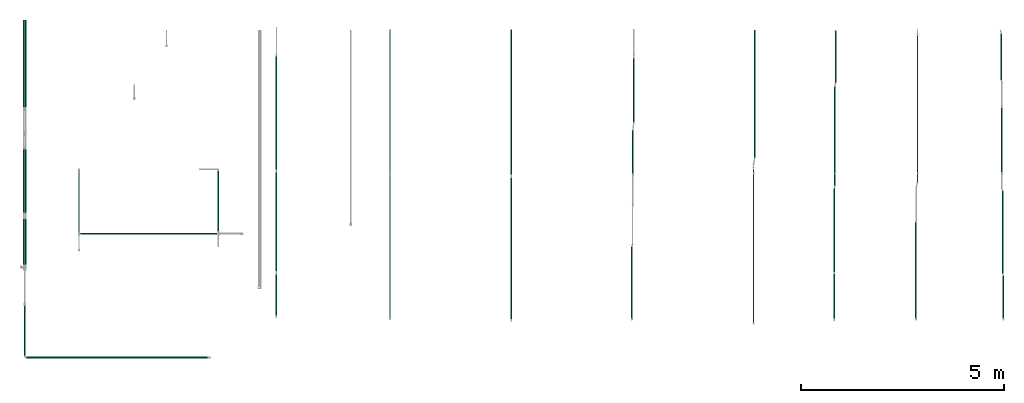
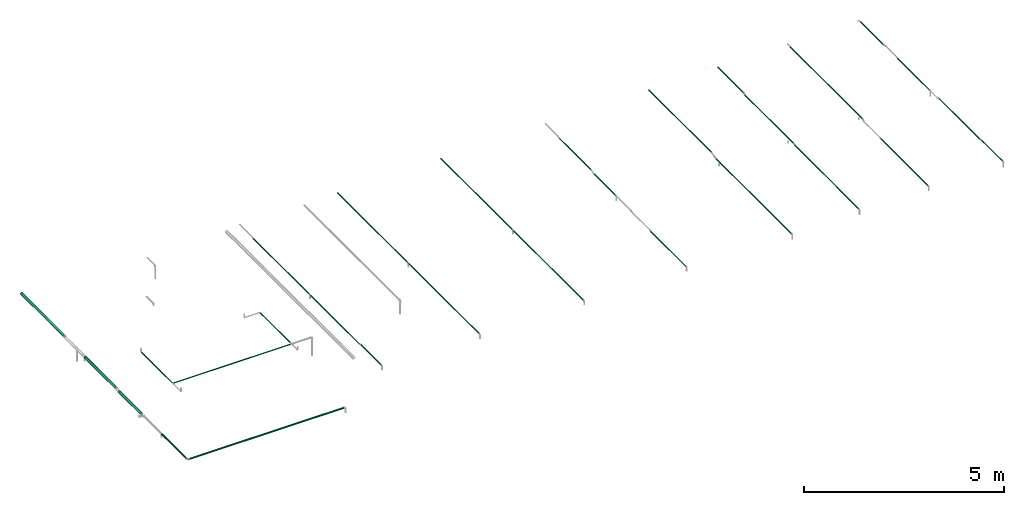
# One storey, part 1 of 32: 30 flow segments.
"""IFC2X3 building model written with IfcOpenShell, lengths in millimetres."""

from ifc_helpers import new_model, entity, si_unit, converted_unit, derived_unit, direction, frame, origin_with_axes, origin_2d_with_axis, place, context, subcontext, project, spatial, hollow_circle, extrude, source, transform, mapped, type_object, element, save


model = new_model("IFC2X3")

# Units and contexts
model_context = context("Model", 3, precision=0.01, world=frame((0.0, 4.29681676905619e-09, 0.0)), true_north=direction((4.01073788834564e-13, 1.0)))
plan_context = context("Plan", 3, precision=0.01, world=frame((0.0, 4.29681676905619e-09, 0.0)), true_north=direction((4.01073788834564e-13, 1.0)))
body_context = subcontext(model_context, "Body", "Model", "MODEL_VIEW")
ifc_project = project(units=[converted_unit("PLANEANGLEUNIT", "DEGREE", entity("IfcPositiveLengthMeasure", 0.0174532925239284), si_unit("PLANEANGLEUNIT", "RADIAN"), dimensions=[0, 0, 0, 0, 0, 0, 0]), si_unit("AREAUNIT", "SQUARE_METRE"), si_unit("LENGTHUNIT", "METRE", prefix="MILLI"), si_unit("MASSUNIT", "GRAM", prefix="KILO"), si_unit("POWERUNIT", "WATT"), si_unit("PRESSUREUNIT", "PASCAL", prefix="KILO"), si_unit("FORCEUNIT", "NEWTON", prefix="KILO"), si_unit("ELECTRICVOLTAGEUNIT", "VOLT"), si_unit("ELECTRICCURRENTUNIT", "AMPERE"), si_unit("THERMODYNAMICTEMPERATUREUNIT", "DEGREE_CELSIUS"), si_unit("TIMEUNIT", "SECOND"), si_unit("VOLUMEUNIT", "CUBIC_METRE"), derived_unit("LINEARVELOCITYUNIT", [(si_unit("LENGTHUNIT", "METRE"), 1), (si_unit("TIMEUNIT", "SECOND"), -1)]), derived_unit("VOLUMETRICFLOWRATEUNIT", [(si_unit("VOLUMEUNIT", "CUBIC_METRE"), 1), (si_unit("TIMEUNIT", "SECOND"), -1)]), derived_unit("THERMALTRANSMITTANCEUNIT", [(si_unit("POWERUNIT", "WATT"), 1), (si_unit("THERMODYNAMICTEMPERATUREUNIT", "KELVIN"), -1), (si_unit("AREAUNIT", "SQUARE_METRE"), -1)]), derived_unit("SOUNDPRESSUREUNIT", [(si_unit("PRESSUREUNIT", "PASCAL"), 1)])], contexts=[model_context, plan_context])

# Site, building, storey
site_placement = place(None, frame((0.0, -4.29681676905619e-09, 0.0), z_axis=(0.0, 0.0, 1.0), x_axis=(1.0, 0.0, 0.0)))
site = spatial("IfcSite", under=ifc_project, at=site_placement, CompositionType="ELEMENT")
building_placement = place(site_placement, frame((0.0, 4.29681676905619e-09, 0.0), z_axis=(0.0, 0.0, 1.0), x_axis=(1.0, 0.0, 0.0)))
building = spatial("IfcBuilding", under=site, at=building_placement, Name="mc-building", CompositionType="ELEMENT")
storey_placement = place(building_placement, frame((0.0, 0.0, 205200.0), z_axis=(0.0, 0.0, 1.0), x_axis=(1.0, 0.0, 0.0)))
storey = spatial("IfcBuildingStorey", under=building, at=storey_placement, Name="Nivå D + 1,2 m", CompositionType="ELEMENT", Elevation=205200.0)

# Flow segments
pipe_segment_type = type_object("IfcPipeSegmentType", Name="Stålrør normaltykke", PredefinedType="RIGIDSEGMENT")
shared_shape_1 = source(origin_with_axes(), body_context, "Body", "SweptSolid", [
    extrude(hollow_circle(Radius=16.9, WallThickness=2.0, at=origin_2d_with_axis()), frame((0.0, 0.0, 0.0), z_axis=(1.0, 0.0, 0.0), x_axis=(0.0, 1.0, 0.0)), (0.0, 0.0, 1.0), 1143.1),
])
flow_segment_1_placement = place(storey_placement, frame((347577.5, 466261.90891, 4444.43145999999), z_axis=(0.0, 0.0, 1.0), x_axis=(0.0, 1.0, 0.0)))
element("IfcFlowSegment", 1, at=flow_segment_1_placement, inside=storey, type_object=pipe_segment_type, Name="Stålrør normaltykke", context=body_context, shape_type="MappedRepresentation", body=[
    mapped(shared_shape_1, transform((0.0, 0.0, 0.0), scale=1.0)),
])
shared_shape_2 = source(origin_with_axes(), body_context, "Body", "SweptSolid", [
    extrude(hollow_circle(Radius=16.9, WallThickness=2.0, at=origin_2d_with_axis()), frame((0.0, 0.0, 0.0), z_axis=(1.0, 0.0, 0.0), x_axis=(0.0, 1.0, 0.0)), (0.0, 0.0, 1.0), 1291.1),
])
flow_segment_2_placement = place(storey_placement, frame((343492.5, 467486.03146, 4444.43145999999), z_axis=(0.0, 0.0, 1.0), x_axis=(0.0, -1.0, 0.0)))
element("IfcFlowSegment", 2, at=flow_segment_2_placement, inside=storey, type_object=pipe_segment_type, Name="Stålrør normaltykke", context=body_context, shape_type="MappedRepresentation", body=[
    mapped(shared_shape_2, transform((0.0, 0.0, 0.0), scale=1.0)),
])
shared_shape_3 = source(origin_with_axes(), body_context, "Body", "SweptSolid", [
    extrude(hollow_circle(Radius=16.9, WallThickness=2.0, at=origin_2d_with_axis()), frame((0.0, 0.0, 0.0), z_axis=(1.0, 0.0, 0.0), x_axis=(0.0, 1.0, 0.0)), (0.0, 0.0, 1.0), 3754.3),
])
flow_segment_3_placement = place(storey_placement, frame((341467.5, 460292.23146, 4428.76157999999), z_axis=(0.0, 0.0, 1.0), x_axis=(0.0, 1.0, 0.0)))
element("IfcFlowSegment", 3, at=flow_segment_3_placement, inside=storey, type_object=pipe_segment_type, Name="Stålrør normaltykke", context=body_context, shape_type="MappedRepresentation", body=[
    mapped(shared_shape_3, transform((0.0, 0.0, 0.0), scale=1.0)),
])
shared_shape_4 = source(origin_with_axes(), body_context, "Body", "SweptSolid", [
    extrude(hollow_circle(Radius=16.9, WallThickness=2.0, at=origin_2d_with_axis()), frame((0.0, 0.0, 0.0), z_axis=(1.0, 0.0, 0.0), x_axis=(0.0, 1.0, 0.0)), (0.0, 0.0, 1.0), 3498.7),
])
flow_segment_4_placement = place(storey_placement, frame((335492.5, 460359.73146, 4444.43145999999), z_axis=(0.0, 0.0, 1.0), x_axis=(0.0, 1.0, 0.0)))
element("IfcFlowSegment", 4, at=flow_segment_4_placement, inside=storey, type_object=pipe_segment_type, Name="Stålrør normaltykke", context=body_context, shape_type="MappedRepresentation", body=[
    mapped(shared_shape_4, transform((0.0, 0.0, 0.0), scale=1.0)),
])
shared_shape_5 = source(origin_with_axes(), body_context, "Body", "SweptSolid", [
    extrude(hollow_circle(Radius=16.9, WallThickness=2.0, at=origin_2d_with_axis()), frame((0.0, 0.0, 0.0), z_axis=(1.0, 0.0, 0.0), x_axis=(0.0, 1.0, 0.0)), (0.0, 0.0, 1.0), 3585.0),
])
flow_segment_5_placement = place(storey_placement, frame((335492.5, 463926.06745, 4444.43145999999), z_axis=(0.0, 0.0, 1.0), x_axis=(0.0, 1.0, 0.0)))
element("IfcFlowSegment", 5, at=flow_segment_5_placement, inside=storey, type_object=pipe_segment_type, Name="Stålrør normaltykke", context=body_context, shape_type="MappedRepresentation", body=[
    mapped(shared_shape_5, transform((0.0, 0.0, 0.0), scale=1.0)),
])
shared_shape_6 = source(origin_with_axes(), body_context, "Body", "SweptSolid", [
    extrude(hollow_circle(Radius=16.9, WallThickness=2.0, at=origin_2d_with_axis()), frame((0.0, 0.0, 0.0), z_axis=(1.0, 0.0, 0.0), x_axis=(0.0, 1.0, 0.0)), (0.0, 0.0, 1.0), 3526.2),
])
flow_segment_6_placement = place(storey_placement, frame((332502.5, 460407.23146, 4444.43145999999), z_axis=(0.0, 0.0, 1.0), x_axis=(0.0, 1.0, 0.0)))
element("IfcFlowSegment", 6, at=flow_segment_6_placement, inside=storey, type_object=pipe_segment_type, Name="Stålrør normaltykke", context=body_context, shape_type="MappedRepresentation", body=[
    mapped(shared_shape_6, transform((0.0, 0.0, 0.0), scale=1.0)),
])
shared_shape_7 = source(origin_with_axes(), body_context, "Body", "SweptSolid", [
    extrude(hollow_circle(Radius=16.9, WallThickness=2.0, at=origin_2d_with_axis()), frame((0.0, 0.0, 0.0), z_axis=(1.0, 0.0, 0.0), x_axis=(0.0, 1.0, 0.0)), (0.0, 0.0, 1.0), 3510.0),
])
flow_segment_7_placement = place(storey_placement, frame((332502.5, 464001.06745, 4444.43145999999), z_axis=(0.0, 0.0, 1.0), x_axis=(0.0, 1.0, 0.0)))
element("IfcFlowSegment", 7, at=flow_segment_7_placement, inside=storey, type_object=pipe_segment_type, Name="Stålrør normaltykke", context=body_context, shape_type="MappedRepresentation", body=[
    mapped(shared_shape_7, transform((0.0, 0.0, 0.0), scale=1.0)),
])
shared_shape_8 = source(origin_with_axes(), body_context, "Body", "SweptSolid", [
    extrude(hollow_circle(Radius=24.1, WallThickness=2.0, at=origin_2d_with_axis()), frame((0.0, 0.0, 0.0), z_axis=(1.0, 0.0, 0.0), x_axis=(0.0, 1.0, 0.0)), (0.0, 0.0, 1.0), 4467.4),
])
flow_segment_8_placement = place(storey_placement, frame((328013.26406, 459420.23929, 4347.43145999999), z_axis=(0.0, 0.0, 1.0), x_axis=(-0.999999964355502, 0.000266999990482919, 0.0)))
element("IfcFlowSegment", 8, at=flow_segment_8_placement, inside=storey, type_object=pipe_segment_type, Name="Stålrør normaltykke", context=body_context, shape_type="MappedRepresentation", body=[
    mapped(shared_shape_8, transform((0.0, 0.0, 0.0), scale=1.0)),
])
shared_shape_9 = source(origin_with_axes(), body_context, "Body", "SweptSolid", [
    extrude(hollow_circle(Radius=38.0, WallThickness=2.0, at=origin_2d_with_axis()), frame((0.0, 0.0, 0.0), z_axis=(1.0, 0.0, 0.0), x_axis=(0.0, 1.0, 0.0)), (0.0, 0.0, 1.0), 1551.7),
])
flow_segment_9_placement = place(storey_placement, frame((323497.5, 462996.80729, 4367.43145999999), z_axis=(0.0, 0.0, 1.0), x_axis=(0.0, 1.0, 0.0)))
element("IfcFlowSegment", 9, at=flow_segment_9_placement, inside=storey, type_object=pipe_segment_type, Name="Stålrør normaltykke", context=body_context, shape_type="MappedRepresentation", body=[
    mapped(shared_shape_9, transform((0.0, 0.0, 0.0), scale=1.0)),
])
shared_shape_10 = source(origin_with_axes(), body_context, "Body", "SweptSolid", [
    extrude(hollow_circle(Radius=16.9, WallThickness=2.0, at=origin_2d_with_axis()), frame((0.0, 0.0, 0.0), z_axis=(1.0, 0.0, 0.0), x_axis=(0.0, 1.0, 0.0)), (0.0, 0.0, 1.0), 2444.9),
])
flow_segment_10_placement = place(storey_placement, frame((329697.5, 461543.61733, 4419.99012999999), z_axis=(0.0, 0.0, 1.0), x_axis=(0.0, 1.0, 0.0)))
element("IfcFlowSegment", 10, at=flow_segment_10_placement, inside=storey, type_object=pipe_segment_type, Name="Stålrør normaltykke", context=body_context, shape_type="MappedRepresentation", body=[
    mapped(shared_shape_10, transform((0.0, 0.0, 0.0), scale=1.0)),
])
shared_shape_11 = source(origin_with_axes(), body_context, "Body", "SweptSolid", [
    extrude(hollow_circle(Radius=24.1, WallThickness=2.0, at=origin_2d_with_axis()), frame((0.0, 0.0, 0.0), z_axis=(1.0, 0.0, 0.0), x_axis=(0.0, 1.0, 0.0)), (0.0, 0.0, 1.0), 1229.8),
])
flow_segment_11_placement = place(storey_placement, frame((323497.5, 460699.63146, 4347.43145999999), z_axis=(0.0, 0.0, 1.0), x_axis=(0.0, -1.0, 0.0)))
element("IfcFlowSegment", 11, at=flow_segment_11_placement, inside=storey, type_object=pipe_segment_type, Name="Stålrør normaltykke", context=body_context, shape_type="MappedRepresentation", body=[
    mapped(shared_shape_11, transform((0.0, 0.0, 0.0), scale=1.0)),
])
shared_shape_12 = source(origin_with_axes(), body_context, "Body", "SweptSolid", [
    extrude(hollow_circle(Radius=38.0, WallThickness=2.0, at=origin_2d_with_axis()), frame((0.0, 0.0, 0.0), z_axis=(1.0, 0.0, 0.0), x_axis=(0.0, 1.0, 0.0)), (0.0, 0.0, 1.0), 2150.0),
])
flow_segment_12_placement = place(storey_placement, frame((323497.5, 467744.63146, 4382.43145999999), z_axis=(0.0, 0.0, 1.0), x_axis=(0.0, -1.0, 0.0)))
element("IfcFlowSegment", 12, at=flow_segment_12_placement, inside=storey, type_object=pipe_segment_type, Name="Stålrør normaltykke", context=body_context, shape_type="MappedRepresentation", body=[
    mapped(shared_shape_12, transform((0.0, 0.0, 0.0), scale=1.0)),
])
shared_shape_13 = source(origin_with_axes(), body_context, "Body", "SweptSolid", [
    extrude(hollow_circle(Radius=38.0, WallThickness=2.0, at=origin_2d_with_axis()), frame((0.0, 0.0, 0.0), z_axis=(1.0, 0.0, 0.0), x_axis=(0.0, 1.0, 0.0)), (0.0, 0.0, 1.0), 1134.6),
])
flow_segment_13_placement = place(storey_placement, frame((323497.5, 461711.39192, 4347.43145999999), z_axis=(0.0, 0.0, 1.0), x_axis=(0.0, 1.0, 0.0)))
element("IfcFlowSegment", 13, at=flow_segment_13_placement, inside=storey, type_object=pipe_segment_type, Name="Stålrør normaltykke", context=body_context, shape_type="MappedRepresentation", body=[
    mapped(shared_shape_13, transform((0.0, 0.0, 0.0), scale=1.0)),
])
shared_shape_14 = source(origin_with_axes(), body_context, "Body", "SweptSolid", [
    extrude(hollow_circle(Radius=16.9, WallThickness=2.0, at=origin_2d_with_axis()), frame((0.0, 0.0, 0.0), z_axis=(1.0, 0.0, 0.0), x_axis=(0.0, 1.0, 0.0)), (0.0, 0.0, 1.0), 2797.2),
])
flow_segment_14_placement = place(storey_placement, frame((329697.5, 464056.06745, 4419.99012999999), z_axis=(0.0, 0.0, 1.0), x_axis=(0.0, 1.0, 0.0)))
element("IfcFlowSegment", 14, at=flow_segment_14_placement, inside=storey, type_object=pipe_segment_type, Name="Stålrør normaltykke", context=body_context, shape_type="MappedRepresentation", body=[
    mapped(shared_shape_14, transform((0.0, 0.0, 0.0), scale=1.0)),
])
shared_shape_15 = source(origin_with_axes(), body_context, "Body", "SweptSolid", [
    extrude(hollow_circle(Radius=16.9, WallThickness=2.0, at=origin_2d_with_axis()), frame((0.0, 0.0, 0.0), z_axis=(1.0, 0.0, 0.0), x_axis=(0.0, 1.0, 0.0)), (0.0, 0.0, 1.0), 1013.4),
])
flow_segment_15_placement = place(storey_placement, frame((329697.5, 460457.23146, 4443.58468999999), z_axis=(0.0, 0.0, 1.0), x_axis=(0.0, 1.0, 0.0)))
element("IfcFlowSegment", 15, at=flow_segment_15_placement, inside=storey, type_object=pipe_segment_type, Name="Stålrør normaltykke", context=body_context, shape_type="MappedRepresentation", body=[
    mapped(shared_shape_15, transform((0.0, 0.0, 0.0), scale=1.0)),
])
shared_shape_16 = source(origin_with_axes(), body_context, "Body", "SweptSolid", [
    extrude(hollow_circle(Radius=16.9, WallThickness=2.0, at=origin_2d_with_axis()), frame((0.0, 0.0, 0.0), z_axis=(1.0, 0.0, 0.0), x_axis=(0.0, 1.0, 0.0)), (0.0, 0.0, 1.0), 1067.9),
])
flow_segment_16_placement = place(storey_placement, frame((338492.5, 463956.06745, 4424.13733999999), z_axis=(0.0, 0.0, 1.0), x_axis=(0.0, 1.0, 0.0)))
element("IfcFlowSegment", 16, at=flow_segment_16_placement, inside=storey, type_object=pipe_segment_type, Name="Stålrør normaltykke", context=body_context, shape_type="MappedRepresentation", body=[
    mapped(shared_shape_16, transform((0.0, 0.0, 0.0), scale=1.0)),
])
shared_shape_17 = source(origin_with_axes(), body_context, "Body", "SweptSolid", [
    extrude(hollow_circle(Radius=16.9, WallThickness=2.0, at=origin_2d_with_axis()), frame((0.0, 0.0, 0.0), z_axis=(1.0, 0.0, 0.0), x_axis=(0.0, 1.0, 0.0)), (0.0, 0.0, 1.0), 1761.7),
])
flow_segment_17_placement = place(storey_placement, frame((338467.5, 460387.23146, 4424.13733999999), z_axis=(0.0, 0.0, 1.0), x_axis=(0.0, 1.0, 0.0)))
element("IfcFlowSegment", 17, at=flow_segment_17_placement, inside=storey, type_object=pipe_segment_type, Name="Stålrør normaltykke", context=body_context, shape_type="MappedRepresentation", body=[
    mapped(shared_shape_17, transform((0.0, 0.0, 0.0), scale=1.0)),
])
shared_shape_18 = source(origin_with_axes(), body_context, "Body", "SweptSolid", [
    extrude(hollow_circle(Radius=16.9, WallThickness=2.0, at=origin_2d_with_axis()), frame((0.0, 0.0, 0.0), z_axis=(1.0, 0.0, 0.0), x_axis=(0.0, 1.0, 0.0)), (0.0, 0.0, 1.0), 1567.5),
])
flow_segment_18_placement = place(storey_placement, frame((338517.5, 465228.17176, 4424.13733999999), z_axis=(0.0, 0.0, 1.0), x_axis=(0.0, 1.0, 0.0)))
element("IfcFlowSegment", 18, at=flow_segment_18_placement, inside=storey, type_object=pipe_segment_type, Name="Stålrør normaltykke", context=body_context, shape_type="MappedRepresentation", body=[
    mapped(shared_shape_18, transform((0.0, 0.0, 0.0), scale=1.0)),
])
shared_shape_19 = source(origin_with_axes(), body_context, "Body", "SweptSolid", [
    extrude(hollow_circle(Radius=16.9, WallThickness=2.0, at=origin_2d_with_axis()), frame((0.0, 0.0, 0.0), z_axis=(1.0, 0.0, 0.0), x_axis=(0.0, 1.0, 0.0)), (0.0, 0.0, 1.0), 3156.9),
])
flow_segment_19_placement = place(storey_placement, frame((341497.5, 467501.03146, 4444.43145999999), z_axis=(0.0, 0.0, 1.0), x_axis=(0.0, -1.0, 0.0)))
element("IfcFlowSegment", 19, at=flow_segment_19_placement, inside=storey, type_object=pipe_segment_type, Name="Stålrør normaltykke", context=body_context, shape_type="MappedRepresentation", body=[
    mapped(shared_shape_19, transform((0.0, 0.0, 0.0), scale=1.0)),
])
shared_shape_20 = source(origin_with_axes(), body_context, "Body", "SweptSolid", [
    extrude(hollow_circle(Radius=16.9, WallThickness=2.0, at=origin_2d_with_axis()), frame((0.0, 0.0, 0.0), z_axis=(1.0, 0.0, 0.0), x_axis=(0.0, 1.0, 0.0)), (0.0, 0.0, 1.0), 2441.1),
])
flow_segment_20_placement = place(storey_placement, frame((343472.5, 463661.05083, 4444.43145999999), z_axis=(0.0, 0.0, 1.0), x_axis=(0.0, 1.0, 0.0)))
element("IfcFlowSegment", 20, at=flow_segment_20_placement, inside=storey, type_object=pipe_segment_type, Name="Stålrør normaltykke", context=body_context, shape_type="MappedRepresentation", body=[
    mapped(shared_shape_20, transform((0.0, 0.0, 0.0), scale=1.0)),
])
shared_shape_21 = source(origin_with_axes(), body_context, "Body", "SweptSolid", [
    extrude(hollow_circle(Radius=16.9, WallThickness=2.0, at=origin_2d_with_axis()), frame((0.0, 0.0, 0.0), z_axis=(1.0, 0.0, 0.0), x_axis=(0.0, 1.0, 0.0)), (0.0, 0.0, 1.0), 2061.4),
])
flow_segment_21_placement = place(storey_placement, frame((343462.5, 461529.40033, 4444.43145999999), z_axis=(0.0, 0.0, 1.0), x_axis=(0.0, 1.0, 0.0)))
element("IfcFlowSegment", 21, at=flow_segment_21_placement, inside=storey, type_object=pipe_segment_type, Name="Stålrør normaltykke", context=body_context, shape_type="MappedRepresentation", body=[
    mapped(shared_shape_21, transform((0.0, 0.0, 0.0), scale=1.0)),
])
shared_shape_22 = source(origin_with_axes(), body_context, "Body", "SweptSolid", [
    extrude(hollow_circle(Radius=16.9, WallThickness=2.0, at=origin_2d_with_axis()), frame((0.0, 0.0, 0.0), z_axis=(1.0, 0.0, 0.0), x_axis=(0.0, 1.0, 0.0)), (0.0, 0.0, 1.0), 1114.0),
])
flow_segment_22_placement = place(storey_placement, frame((343457.5, 460372.23146, 4444.43145999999), z_axis=(0.0, 0.0, 1.0), x_axis=(0.0, 1.0, 0.0)))
element("IfcFlowSegment", 22, at=flow_segment_22_placement, inside=storey, type_object=pipe_segment_type, Name="Stålrør normaltykke", context=body_context, shape_type="MappedRepresentation", body=[
    mapped(shared_shape_22, transform((0.0, 0.0, 0.0), scale=1.0)),
])
shared_shape_23 = source(origin_with_axes(), body_context, "Body", "SweptSolid", [
    extrude(hollow_circle(Radius=16.9, WallThickness=2.0, at=origin_2d_with_axis()), frame((0.0, 0.0, 0.0), z_axis=(1.0, 0.0, 0.0), x_axis=(0.0, 1.0, 0.0)), (0.0, 0.0, 1.0), 3614.3),
])
flow_segment_23_placement = place(storey_placement, frame((345512.5, 463746.96531, 4434.19579999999), z_axis=(0.0, 0.0, 1.0), x_axis=(0.0, 1.0, 0.0)))
element("IfcFlowSegment", 23, at=flow_segment_23_placement, inside=storey, type_object=pipe_segment_type, Name="Stålrør normaltykke", context=body_context, shape_type="MappedRepresentation", body=[
    mapped(shared_shape_23, transform((0.0, 0.0, 0.0), scale=1.0)),
])
shared_shape_24 = source(origin_with_axes(), body_context, "Body", "SweptSolid", [
    extrude(hollow_circle(Radius=16.9, WallThickness=2.0, at=origin_2d_with_axis()), frame((0.0, 0.0, 0.0), z_axis=(1.0, 0.0, 0.0), x_axis=(0.0, 1.0, 0.0)), (0.0, 0.0, 1.0), 2361.7),
])
flow_segment_24_placement = place(storey_placement, frame((345472.5, 460392.23146, 4434.19579999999), z_axis=(0.0, 0.0, 1.0), x_axis=(0.0, 1.0, 0.0)))
element("IfcFlowSegment", 24, at=flow_segment_24_placement, inside=storey, type_object=pipe_segment_type, Name="Stålrør normaltykke", context=body_context, shape_type="MappedRepresentation", body=[
    mapped(shared_shape_24, transform((0.0, 0.0, 0.0), scale=1.0)),
])
shared_shape_25 = source(origin_with_axes(), body_context, "Body", "SweptSolid", [
    extrude(hollow_circle(Radius=16.9, WallThickness=2.0, at=origin_2d_with_axis()), frame((0.0, 0.0, 0.0), z_axis=(1.0, 0.0, 0.0), x_axis=(0.0, 1.0, 0.0)), (0.0, 0.0, 1.0), 1587.6),
])
flow_segment_25_placement = place(storey_placement, frame((347592.5, 463993.56745, 4433.60793), z_axis=(0.0, 0.0, 1.0), x_axis=(0.0, 1.0, 0.0)))
element("IfcFlowSegment", 25, at=flow_segment_25_placement, inside=storey, type_object=pipe_segment_type, Name="Stålrør normaltykke", context=body_context, shape_type="MappedRepresentation", body=[
    mapped(shared_shape_25, transform((0.0, 0.0, 0.0), scale=1.0)),
])
shared_shape_26 = source(origin_with_axes(), body_context, "Body", "SweptSolid", [
    extrude(hollow_circle(Radius=16.9, WallThickness=2.0, at=origin_2d_with_axis()), frame((0.0, 0.0, 0.0), z_axis=(1.0, 0.0, 0.0), x_axis=(0.0, 1.0, 0.0)), (0.0, 0.0, 1.0), 2043.3),
])
flow_segment_26_placement = place(storey_placement, frame((347612.5, 461487.85871, 4433.60793), z_axis=(0.0, 0.0, 1.0), x_axis=(0.0, 1.0, 0.0)))
element("IfcFlowSegment", 26, at=flow_segment_26_placement, inside=storey, type_object=pipe_segment_type, Name="Stålrør normaltykke", context=body_context, shape_type="MappedRepresentation", body=[
    mapped(shared_shape_26, transform((0.0, 0.0, 0.0), scale=1.0)),
])
shared_shape_27 = source(origin_with_axes(), body_context, "Body", "SweptSolid", [
    extrude(hollow_circle(Radius=16.9, WallThickness=2.0, at=origin_2d_with_axis()), frame((0.0, 0.0, 0.0), z_axis=(1.0, 0.0, 0.0), x_axis=(0.0, 1.0, 0.0)), (0.0, 0.0, 1.0), 1040.6),
])
flow_segment_27_placement = place(storey_placement, frame((347627.5, 460392.23146, 4433.60793), z_axis=(0.0, 0.0, 1.0), x_axis=(0.0, 1.0, 0.0)))
element("IfcFlowSegment", 27, at=flow_segment_27_placement, inside=storey, type_object=pipe_segment_type, Name="Stålrør normaltykke", context=body_context, shape_type="MappedRepresentation", body=[
    mapped(shared_shape_27, transform((0.0, 0.0, 0.0), scale=1.0)),
])
shared_shape_28 = source(origin_with_axes(), body_context, "Body", "SweptSolid", [
    extrude(hollow_circle(Radius=16.9, WallThickness=2.0, at=origin_2d_with_axis()), frame((0.0, 0.0, 0.0), z_axis=(1.0, 0.0, 0.0), x_axis=(0.0, 1.0, 0.0)), (0.0, 0.0, 1.0), 1519.4),
])
flow_segment_28_placement = place(storey_placement, frame((324834.97595, 462509.64044, 4357.43145999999), z_axis=(0.0, 0.0, 1.0), x_axis=(0.0, 1.0, 0.0)))
element("IfcFlowSegment", 28, at=flow_segment_28_placement, inside=storey, type_object=pipe_segment_type, Name="Stålrør normaltykke", context=body_context, shape_type="MappedRepresentation", body=[
    mapped(shared_shape_28, transform((0.0, 0.0, 0.0), scale=1.0)),
])
shared_shape_29 = source(origin_with_axes(), body_context, "Body", "SweptSolid", [
    extrude(hollow_circle(Radius=16.9, WallThickness=2.0, at=origin_2d_with_axis()), frame((0.0, 0.0, 0.0), z_axis=(1.0, 0.0, 0.0), x_axis=(0.0, 1.0, 0.0)), (0.0, 0.0, 1.0), 1490.2),
])
flow_segment_29_placement = place(storey_placement, frame((328269.97595, 462538.84044, 4357.43145999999), z_axis=(0.0, 0.0, 1.0), x_axis=(0.0, 1.0, 0.0)))
element("IfcFlowSegment", 29, at=flow_segment_29_placement, inside=storey, type_object=pipe_segment_type, Name="Stålrør normaltykke", context=body_context, shape_type="MappedRepresentation", body=[
    mapped(shared_shape_29, transform((0.0, 0.0, 0.0), scale=1.0)),
])
shared_shape_30 = source(origin_with_axes(), body_context, "Body", "SweptSolid", [
    extrude(hollow_circle(Radius=16.9, WallThickness=2.0, at=origin_2d_with_axis()), frame((0.0, 0.0, 0.0), z_axis=(1.0, 0.0, 0.0), x_axis=(0.0, 1.0, 0.0)), (0.0, 0.0, 1.0), 3373.3),
])
flow_segment_30_placement = place(storey_placement, frame((324860.32595, 462475.84044, 4357.43145999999), z_axis=(0.0, 0.0, 1.0), x_axis=(1.0, 0.0, 0.0)))
element("IfcFlowSegment", 30, at=flow_segment_30_placement, inside=storey, type_object=pipe_segment_type, Name="Stålrør normaltykke", context=body_context, shape_type="MappedRepresentation", body=[
    mapped(shared_shape_30, transform((0.0, 0.0, 0.0), scale=1.0)),
])

save(model, "model.ifc")
